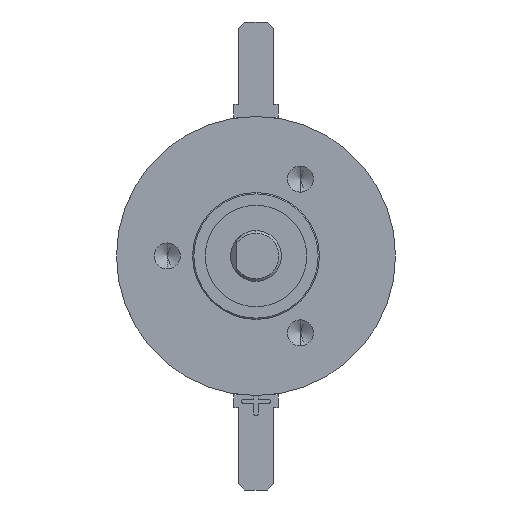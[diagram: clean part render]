
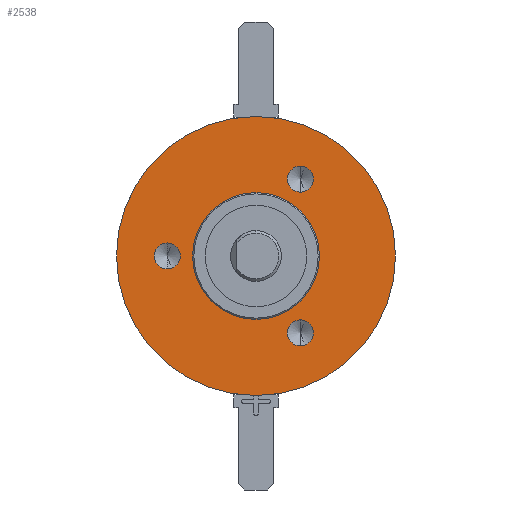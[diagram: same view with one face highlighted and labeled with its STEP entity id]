
A CAD part, left-side view. The second image highlights one B-rep face of the part: STEP entity #2538.
In plain terms, the highlighted planar face has unit normal (-1, 0, 0).
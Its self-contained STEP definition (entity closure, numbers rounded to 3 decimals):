
#74 = AXIS2_PLACEMENT_3D ( 'NONE', #8082, #9219, #10398 ) ;
#92 = EDGE_LOOP ( 'NONE', ( #4989, #15974 ) ) ;
#208 = CARTESIAN_POINT ( 'NONE',  ( 14.85, -3.5, -6.062 ) ) ;
#327 = CARTESIAN_POINT ( 'NONE',  ( 14.85, -3.5, -7.087 ) ) ;
#640 = DIRECTION ( 'NONE',  ( 0., 0., 1. ) ) ;
#723 = CARTESIAN_POINT ( 'NONE',  ( 14.85, -3.5, 5.037 ) ) ;
#772 = CIRCLE ( 'NONE', #9042, 11. ) ;
#966 = DIRECTION ( 'NONE',  ( 0., 0., 1. ) ) ;
#1363 = DIRECTION ( 'NONE',  ( 0., 0., -1. ) ) ;
#1903 = VERTEX_POINT ( 'NONE', #11976 ) ;
#2122 = DIRECTION ( 'NONE',  ( 0., 0., 1. ) ) ;
#2538 = ADVANCED_FACE ( 'NONE', ( #4772, #9030, #15329, #12580, #13116 ), #11026, .F. ) ;
#2835 = EDGE_CURVE ( 'NONE', #15313, #3351, #11458, .T. ) ;
#3351 = VERTEX_POINT ( 'NONE', #7631 ) ;
#3726 = DIRECTION ( 'NONE',  ( -1., 0., 0. ) ) ;
#3804 = DIRECTION ( 'NONE',  ( 1., 0., 0. ) ) ;
#3929 = DIRECTION ( 'NONE',  ( 0., 0., 1. ) ) ;
#4103 = CARTESIAN_POINT ( 'NONE',  ( 14.85, 7., -1.025 ) ) ;
#4186 = AXIS2_PLACEMENT_3D ( 'NONE', #7932, #11619, #5399 ) ;
#4266 = VERTEX_POINT ( 'NONE', #13341 ) ;
#4668 = CARTESIAN_POINT ( 'NONE',  ( 14.85, 7., 0. ) ) ;
#4772 = FACE_BOUND ( 'NONE', #8039, .T. ) ;
#4948 = CARTESIAN_POINT ( 'NONE',  ( 14.85, -3.5, -6.062 ) ) ;
#4953 = AXIS2_PLACEMENT_3D ( 'NONE', #9345, #10525, #15405 ) ;
#4989 = ORIENTED_EDGE ( 'NONE', *, *, #15864, .F. ) ;
#5138 = EDGE_CURVE ( 'NONE', #8937, #4266, #12737, .T. ) ;
#5399 = DIRECTION ( 'NONE',  ( 0., 0., 1. ) ) ;
#5504 = DIRECTION ( 'NONE',  ( -1., 0., 0. ) ) ;
#5898 = EDGE_CURVE ( 'NONE', #6426, #1903, #8253, .T. ) ;
#5989 = DIRECTION ( 'NONE',  ( -1., 0., 0. ) ) ;
#5999 = EDGE_CURVE ( 'NONE', #13269, #11170, #772, .T. ) ;
#6154 = CIRCLE ( 'NONE', #4953, 1.025 ) ;
#6165 = EDGE_CURVE ( 'NONE', #3351, #15313, #11154, .T. ) ;
#6289 = ORIENTED_EDGE ( 'NONE', *, *, #14198, .T. ) ;
#6426 = VERTEX_POINT ( 'NONE', #327 ) ;
#6547 = CARTESIAN_POINT ( 'NONE',  ( 14.85, 0., 0. ) ) ;
#6647 = VERTEX_POINT ( 'NONE', #14444 ) ;
#7230 = ORIENTED_EDGE ( 'NONE', *, *, #2835, .F. ) ;
#7340 = DIRECTION ( 'NONE',  ( -1., 0., 0. ) ) ;
#7631 = CARTESIAN_POINT ( 'NONE',  ( 14.85, -3.5, 7.087 ) ) ;
#7713 = CARTESIAN_POINT ( 'NONE',  ( 14.85, 5., 0. ) ) ;
#7932 = CARTESIAN_POINT ( 'NONE',  ( 14.85, 0., 0. ) ) ;
#8039 = EDGE_LOOP ( 'NONE', ( #12004, #8614 ) ) ;
#8082 = CARTESIAN_POINT ( 'NONE',  ( 14.85, 0., 0. ) ) ;
#8192 = EDGE_LOOP ( 'NONE', ( #8658, #6289 ) ) ;
#8253 = CIRCLE ( 'NONE', #9205, 1.025 ) ;
#8543 = ORIENTED_EDGE ( 'NONE', *, *, #6165, .F. ) ;
#8614 = ORIENTED_EDGE ( 'NONE', *, *, #14479, .F. ) ;
#8658 = ORIENTED_EDGE ( 'NONE', *, *, #5999, .T. ) ;
#8925 = AXIS2_PLACEMENT_3D ( 'NONE', #12406, #14802, #3929 ) ;
#8937 = VERTEX_POINT ( 'NONE', #12578 ) ;
#9030 = FACE_BOUND ( 'NONE', #12117, .T. ) ;
#9042 = AXIS2_PLACEMENT_3D ( 'NONE', #11147, #3726, #9230 ) ;
#9098 = VERTEX_POINT ( 'NONE', #4103 ) ;
#9198 = EDGE_LOOP ( 'NONE', ( #15031, #10098 ) ) ;
#9205 = AXIS2_PLACEMENT_3D ( 'NONE', #4948, #7340, #966 ) ;
#9219 = DIRECTION ( 'NONE',  ( -1., 0., 0. ) ) ;
#9230 = DIRECTION ( 'NONE',  ( 0., 0., 1. ) ) ;
#9345 = CARTESIAN_POINT ( 'NONE',  ( 14.85, 7., 0. ) ) ;
#9790 = EDGE_CURVE ( 'NONE', #6647, #9098, #6154, .T. ) ;
#10098 = ORIENTED_EDGE ( 'NONE', *, *, #10620, .F. ) ;
#10203 = AXIS2_PLACEMENT_3D ( 'NONE', #6547, #11643, #640 ) ;
#10398 = DIRECTION ( 'NONE',  ( 0., 0., 1. ) ) ;
#10505 = CARTESIAN_POINT ( 'NONE',  ( 14.85, 0., 11. ) ) ;
#10525 = DIRECTION ( 'NONE',  ( -1., 0., 0. ) ) ;
#10620 = EDGE_CURVE ( 'NONE', #4266, #8937, #13756, .T. ) ;
#10739 = CIRCLE ( 'NONE', #15837, 1.025 ) ;
#11026 = PLANE ( 'NONE',  #13175 ) ;
#11147 = CARTESIAN_POINT ( 'NONE',  ( 14.85, 0., 0. ) ) ;
#11154 = CIRCLE ( 'NONE', #8925, 1.025 ) ;
#11170 = VERTEX_POINT ( 'NONE', #12940 ) ;
#11434 = CIRCLE ( 'NONE', #13166, 1.025 ) ;
#11458 = CIRCLE ( 'NONE', #12774, 1.025 ) ;
#11604 = CARTESIAN_POINT ( 'NONE',  ( 14.85, -3.5, 6.062 ) ) ;
#11619 = DIRECTION ( 'NONE',  ( -1., 0., 0. ) ) ;
#11643 = DIRECTION ( 'NONE',  ( -1., 0., 0. ) ) ;
#11976 = CARTESIAN_POINT ( 'NONE',  ( 14.85, -3.5, -5.037 ) ) ;
#12004 = ORIENTED_EDGE ( 'NONE', *, *, #9790, .F. ) ;
#12117 = EDGE_LOOP ( 'NONE', ( #8543, #7230 ) ) ;
#12322 = CIRCLE ( 'NONE', #74, 11. ) ;
#12406 = CARTESIAN_POINT ( 'NONE',  ( 14.85, -3.5, 6.062 ) ) ;
#12578 = CARTESIAN_POINT ( 'NONE',  ( 14.85, 0., 5. ) ) ;
#12580 = FACE_BOUND ( 'NONE', #9198, .T. ) ;
#12737 = CIRCLE ( 'NONE', #10203, 5. ) ;
#12774 = AXIS2_PLACEMENT_3D ( 'NONE', #11604, #5504, #13634 ) ;
#12940 = CARTESIAN_POINT ( 'NONE',  ( 14.85, 0., -11. ) ) ;
#13116 = FACE_OUTER_BOUND ( 'NONE', #8192, .T. ) ;
#13166 = AXIS2_PLACEMENT_3D ( 'NONE', #208, #14953, #13699 ) ;
#13175 = AXIS2_PLACEMENT_3D ( 'NONE', #7713, #3804, #1363 ) ;
#13269 = VERTEX_POINT ( 'NONE', #10505 ) ;
#13341 = CARTESIAN_POINT ( 'NONE',  ( 14.85, 0., -5. ) ) ;
#13634 = DIRECTION ( 'NONE',  ( 0., 0., 1. ) ) ;
#13699 = DIRECTION ( 'NONE',  ( 0., 0., 1. ) ) ;
#13756 = CIRCLE ( 'NONE', #4186, 5. ) ;
#14198 = EDGE_CURVE ( 'NONE', #11170, #13269, #12322, .T. ) ;
#14444 = CARTESIAN_POINT ( 'NONE',  ( 14.85, 7., 1.025 ) ) ;
#14479 = EDGE_CURVE ( 'NONE', #9098, #6647, #10739, .T. ) ;
#14802 = DIRECTION ( 'NONE',  ( -1., 0., 0. ) ) ;
#14953 = DIRECTION ( 'NONE',  ( -1., 0., 0. ) ) ;
#15031 = ORIENTED_EDGE ( 'NONE', *, *, #5138, .F. ) ;
#15313 = VERTEX_POINT ( 'NONE', #723 ) ;
#15329 = FACE_BOUND ( 'NONE', #92, .T. ) ;
#15405 = DIRECTION ( 'NONE',  ( 0., 0., 1. ) ) ;
#15837 = AXIS2_PLACEMENT_3D ( 'NONE', #4668, #5989, #2122 ) ;
#15864 = EDGE_CURVE ( 'NONE', #1903, #6426, #11434, .T. ) ;
#15974 = ORIENTED_EDGE ( 'NONE', *, *, #5898, .F. ) ;
